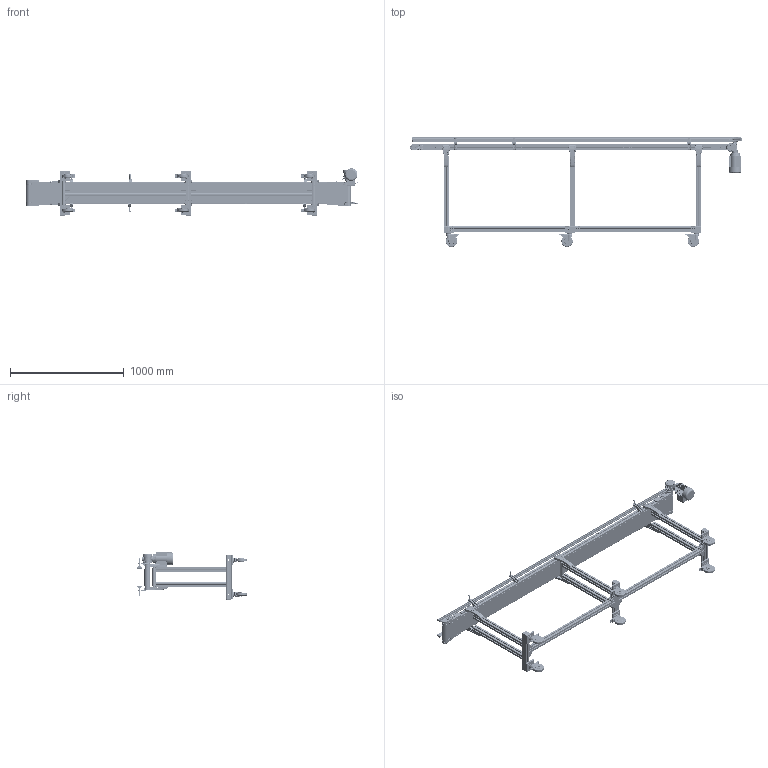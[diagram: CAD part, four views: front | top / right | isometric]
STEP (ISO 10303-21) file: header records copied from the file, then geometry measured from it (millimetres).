
FILE_DESCRIPTION (( 'STEP AP203' ), '1' );
FILE_NAME ('NASTRO_RETTILINEO_TAPPETO.step', '2026-04-21T06:23:26', ( 'Utente Windows' ), ( '' ), 'SwSTEP 2.0', 'SolidWorks 2024', '' );
FILE_SCHEMA (( 'CONFIG_CONTROL_DESIGN' ));
Length unit declared in the file: millimetre
Products named in the file (80): 084.404.004; 084.301.000 VITI ALUSIC1_084.301.003; 084.802.028; 084.712.005; RULLO_REGGITAPPETO; 084.201.012; 084.302.000 DADI ALUSIC 13x13-1_084.302.004; 084.711.006_PER CAVA 8 PERNO ALTO 1; VITI TSEI UNI 5933 INOX_0412UNI5933A2; 084.810.001; BLOCCO_PERNO_50_RINVIO; GRANI A PUNTA CONICA UNI 5927_M6x16 UNI 5927; 084.303.001; RULLO_50_Default<A macchina>; 084.302.000 DADI ALUSIC 13x13_084.302.004; 084.802.065_Default<A macchina>; 084.807.002_084.807.002; 084.405.002-1-L; 084.802.062; TRAVERSA_50_Default<A macchina>; CHIAVETTE_A 5x5x20 UNI 6604-69; 084.808.012; TAPPETO_STANDARD; TELAIO_50_STANDARD_Default<A macchina>; 14UNI7435; GAMBE_D50_Default<A macchina>; VITI TE UNI 5739_M6x16 UNI 5739; 084.811.004; 2010.000.070; CHIAVETTE_A 5x5x40 UNI 6604-69; 2010.000.068; 084.807.003_084.807.003<A macchina>; VITI TSEI UNI 5933_M4x12 UNI 5933; 084.802.071; 084.802.014; BLOCCO_TRAINO_50_STANDARD; ANGOLARE_43; VITI TCEI UNI 5931_M4x25 UNI 5931; 084.711.006_L2; FLANGIA_GAMBA_50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
Assembly tree (221 placements, depth 4):
  NASTRO_RETTILINEO_TAPPETO
    TAPPETO_STANDARD
    TELAIO_50_STANDARD_Default<A macchina>
    LAMIERA_STANDARD  x2
    RULLO_50_Default<A macchina>  x2
    BLOCCO_PERNO_50_30
      084.810.001
      084.811.001
      RONDELLE FASCIA LARGA UNI 6593_5.4x20 UNI 6593
      084.301.000 VITI ALUSIC_084.301.009
      CHIAVETTE_A 5x5x40 UNI 6604-69
      CHIAVETTE_A 5x5x20 UNI 6604-69
      14UNI7435
    BLOCCO_TRAINO_50_STANDARD_30_DX
      084.807.003_084.807.003<A macchina>
      084.802.017_084.802.017
      084.301.000 VITI ALUSIC_084.301.003  x2
      084.302.000 DADI ALUSIC 13x13-1_084.302.004  x2
      BLOCCO_BRACCIO_CH03P_VF30P
        084.808.012
        084.802.062
        084.802.061
        VITI TE UNI 5739_M6x16 UNI 5739  x4
        084.803.018
        VITI TCEI UNI 5931_M6x12 UNI 5931  x4
      084.802.065_Default<A macchina>
      VITI TCEI UNI 5931_M4x25 UNI 5931  x2
    BLOCCO_PERNO_50_RINVIO  x3
      084.811.004
      084.810.001
    BLOCCO_TRAINO_50_STANDARD
      084.807.002_084.807.002
      084.802.017_084.802.017
      084.301.000 VITI ALUSIC_084.301.003  x2
      084.302.000 DADI ALUSIC 13x13-1_084.302.004  x2
      VITI TSEI UNI 5933_M4x12 UNI 5933  x4
      084.802.071
      VITI TSEI UNI 5933 INOX_0412UNI5933A2  x2
    BLOCCO_RINVIO_50_STANDARD  x2
      084.807.002_084.807.002
      084.802.017_084.802.017
      084.802.008
      084.301.000 VITI ALUSIC_084.301.003
      084.302.000 DADI ALUSIC 13x13_084.302.004
      VITI TSEI UNI 5933_M4x10 UNI 5933
      084.802.071
    SPONDA_Default<A macchina>  x2
    084.711.006_PER CAVA 8 PERNO ALTO 1  x6
      084.711.006_L1
      084.711.006_L2
      084.711.007
      084.711.005
      084.711.010
      DADI ESAGONALI NORMALI UNI 5588_M6 UNI 5588
    084.712.002  x2
    084.712.005  x2
      084.712.005
      DADI ESAGONALI NORMALI UNI 5588_M6 UNI 5588
      GRANI A PUNTA CONICA UNI 5927_M6x16 UNI 5927
    GAMBE_D50_Default<A macchina>  x3
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Bounding box: 2916.48 x 964.1 x 415.5 mm (x, y, z)
Volume: 18265806.9 mm3; surface area: 13363732.9 mm2
Topology: 507 solids, 515 shells, 23975 faces, 62066 edges, 39395 vertices
Faces by surface type: plane 10211, cylinder 7386, bspline 2530, cone 2021, torus 1549, sphere 278
Entity records: 270127 total; most frequent: CARTESIAN_POINT 80848, ORIENTED_EDGE 38592, DIRECTION 35365, EDGE_CURVE 19296, VERTEX_POINT 12415, AXIS2_PLACEMENT_3D 12241, VECTOR 10883, LINE 10883
